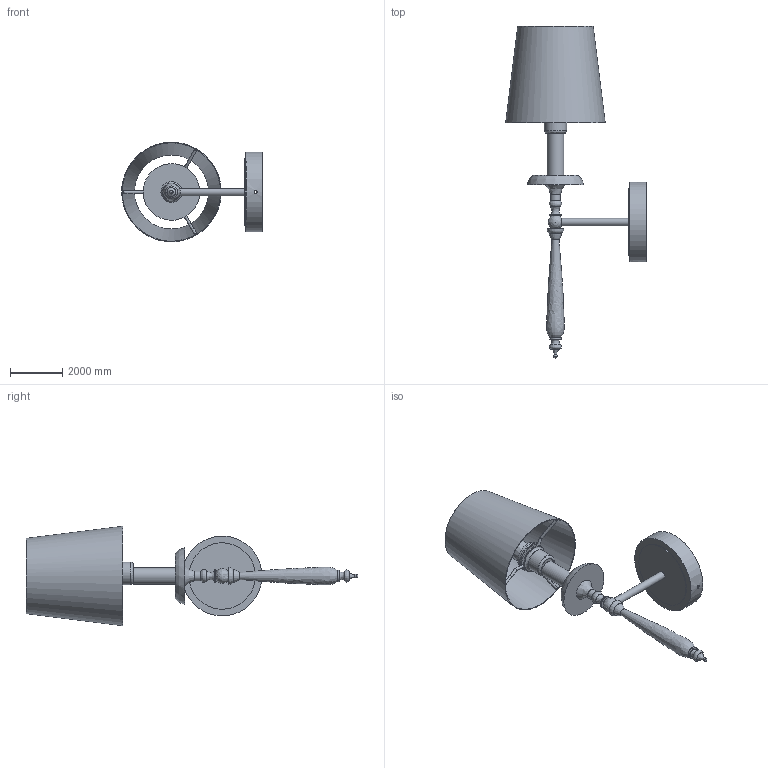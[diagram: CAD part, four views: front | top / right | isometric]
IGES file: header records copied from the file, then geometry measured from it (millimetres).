
Global section: file name: Payson Wall Lamp; native system: AutoCAD 2022 - 简体中文 (Simplified Chinese),62HAuto; preprocessor: desk Translation Framework DWG producer (atf_dwg_producer); organization: unknown; date: 20260417.170937; units: inch
Bounding box: 5383.19 x 12699.53 x 3805.31 mm (x, y, z)
Volume: 4770836736.3 mm3; surface area: 165323812 mm2
Topology: 14 solids, 14 shells, 100 faces, 232 edges, 168 vertices
Faces by surface type: bspline 100
